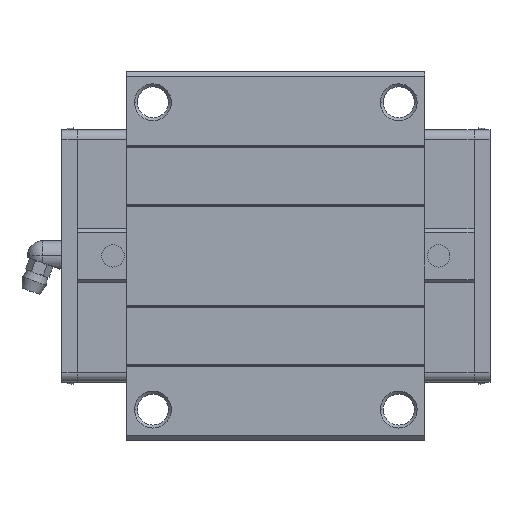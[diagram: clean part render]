
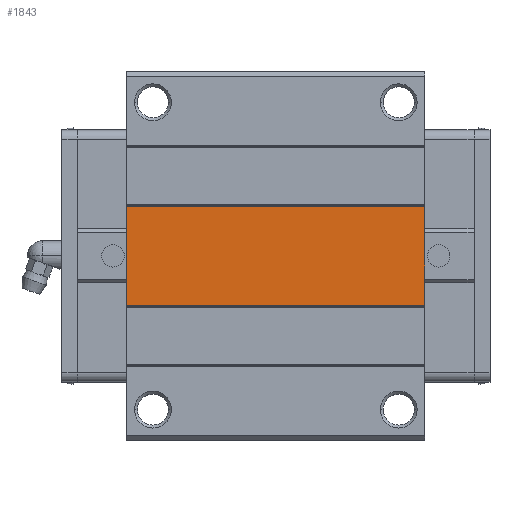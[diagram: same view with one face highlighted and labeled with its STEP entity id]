
A CAD part, top view. The second image highlights one B-rep face of the part: STEP entity #1843.
In plain terms, the highlighted planar face has unit normal (0, 0, 1).
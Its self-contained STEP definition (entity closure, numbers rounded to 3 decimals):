
#1782=CARTESIAN_POINT('POINT608',(118.2,-16.05,50.5))
   ;
#1783=VERTEX_POINT('VERTEX608',#1782);
#1790=CARTESIAN_POINT('POINT609',(21.2,-16.05,50.5));
#1791=VERTEX_POINT('VERTEX609',#1790);
#1792=CARTESIAN_POINT('POS836',(21.2,-16.05,50.5));
#1793=DIRECTION('DIR1276',(1.,0.,0.));
#1794=VECTOR('VEC396',#1793,1.);
#1795=LINE('STRAIGHT396',#1792,#1794);
#1796=EDGE_CURVE('EDGE971',#1791,#1783,#1795,.T.);
#1813=CARTESIAN_POINT('POINT610',(118.2,16.05,
   50.5));
#1814=VERTEX_POINT('VERTEX610',#1813);
#1815=CARTESIAN_POINT('POS839',(118.2,16.05,
   50.5));
#1816=DIRECTION('DIR1280',(0.,1.,0.));
#1817=VECTOR('VEC398',#1816,1.);
#1818=LINE('STRAIGHT398',#1815,#1817);
#1819=EDGE_CURVE('EDGE973',#1783,#1814,#1818,.T.);
#1820=ORIENTED_EDGE('COEDGE1894',*,*,#1819,.T.);
#1821=CARTESIAN_POINT('POINT611',(21.2,16.05,
   50.5));
#1822=VERTEX_POINT('VERTEX611',#1821);
#1823=CARTESIAN_POINT('POS840',(21.2,16.05,
   50.5));
#1824=DIRECTION('DIR1281',(1.,0.,0.));
#1825=VECTOR('VEC399',#1824,1.);
#1826=LINE('STRAIGHT399',#1823,#1825);
#1827=EDGE_CURVE('EDGE974',#1822,#1814,#1826,.T.);
#1828=ORIENTED_EDGE('COEDGE1895',*,*,#1827,.F.);
#1829=CARTESIAN_POINT('POS841',(21.2,16.05,
   50.5));
#1830=DIRECTION('DIR1282',(0.,-1.,0.));
#1831=VECTOR('VEC400',#1830,1.);
#1832=LINE('STRAIGHT400',#1829,#1831);
#1833=EDGE_CURVE('EDGE975',#1822,#1791,#1832,.T.);
#1834=ORIENTED_EDGE('COEDGE1896',*,*,#1833,.T.);
#1835=ORIENTED_EDGE('COEDGE1897',*,*,#1796,.T.);
#1836=EDGE_LOOP('NONE',(#1820,#1828,#1834,#1835));
#1837=FACE_BOUND('LOOP1',#1836,.T.);
#1838=CARTESIAN_POINT('POS842',(21.2,-16.05,50.5));
#1839=DIRECTION('DIR1283',(0.,0.,1.));
#1840=DIRECTION('DIR1284',(1.,0.,0.));
#1841=AXIS2_PLACEMENT_3D('AXIS442',#1838,#1839,#1840);
#1842=PLANE('PLANE131',#1841);
#1843=ADVANCED_FACE('FACE398',(#1837),#1842,.T.);
